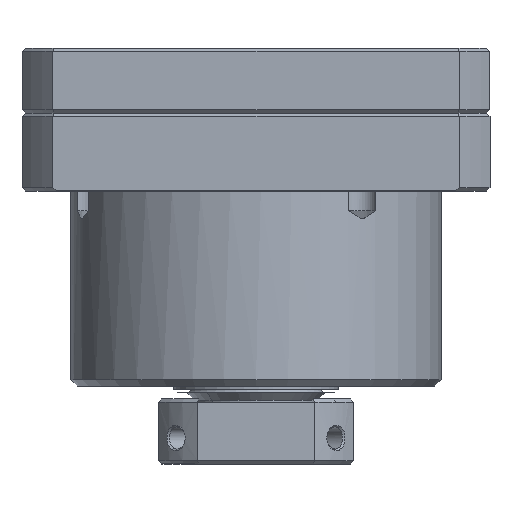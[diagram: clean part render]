
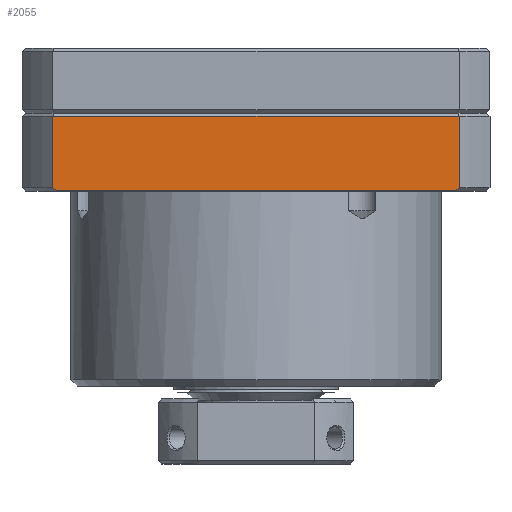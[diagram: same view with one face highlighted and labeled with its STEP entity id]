
A CAD part, front view. The second image highlights one B-rep face of the part: STEP entity #2055.
In plain terms, the highlighted planar face has unit normal (0, -1, 0).
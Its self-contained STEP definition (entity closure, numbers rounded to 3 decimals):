
#205 = EDGE_CURVE ( 'NONE', #2516, #1234, #7622, .T. ) ;
#362 = CARTESIAN_POINT ( 'NONE',  ( -30.917, -29.5, -11.767 ) ) ;
#441 = B_SPLINE_CURVE_WITH_KNOTS ( 'NONE', 3,
 ( #4184, #6577, #3619, #7849 ),
 .UNSPECIFIED., .F., .F.,
 ( 4, 4 ),
 ( 0., 0.001 ),
 .UNSPECIFIED. ) ;
#472 = DIRECTION ( 'NONE',  ( 0., 0., -1. ) ) ;
#548 = CARTESIAN_POINT ( 'NONE',  ( -31.285, -29.5, -0.5 ) ) ;
#573 = PLANE ( 'NONE',  #4563 ) ;
#602 = ORIENTED_EDGE ( 'NONE', *, *, #3113, .F. ) ;
#762 = CARTESIAN_POINT ( 'NONE',  ( -31.285, -29.5, -11.5 ) ) ;
#1016 = CARTESIAN_POINT ( 'NONE',  ( -31.101, -29.5, -11.634 ) ) ;
#1234 = VERTEX_POINT ( 'NONE', #1842 ) ;
#1362 = LINE ( 'NONE', #6729, #3041 ) ;
#1647 = CARTESIAN_POINT ( 'NONE',  ( -31.285, -29.5, -11.5 ) ) ;
#1740 = EDGE_CURVE ( 'NONE', #3479, #7057, #7244, .T. ) ;
#1822 = EDGE_CURVE ( 'NONE', #2274, #2516, #2208, .T. ) ;
#1842 = CARTESIAN_POINT ( 'NONE',  ( 30.733, -29.5, -11.9 ) ) ;
#1911 = EDGE_CURVE ( 'NONE', #3479, #5870, #7902, .T. ) ;
#2055 = ADVANCED_FACE ( 'NONE', ( #3932 ), #573, .T. ) ;
#2208 = B_SPLINE_CURVE_WITH_KNOTS ( 'NONE', 3,
 ( #1647, #1016, #362, #4093 ),
 .UNSPECIFIED., .F., .F.,
 ( 4, 4 ),
 ( 0., 0.001 ),
 .UNSPECIFIED. ) ;
#2209 = CARTESIAN_POINT ( 'NONE',  ( -36., -29.5, -11.9 ) ) ;
#2274 = VERTEX_POINT ( 'NONE', #762 ) ;
#2466 = DIRECTION ( 'NONE',  ( 0., 0., 1. ) ) ;
#2516 = VERTEX_POINT ( 'NONE', #3056 ) ;
#2573 = VECTOR ( 'NONE', #472, 1000. ) ;
#2859 = EDGE_LOOP ( 'NONE', ( #6570, #3224, #4297, #2871, #4794, #602 ) ) ;
#2871 = ORIENTED_EDGE ( 'NONE', *, *, #1740, .F. ) ;
#3041 = VECTOR ( 'NONE', #2466, 1000. ) ;
#3056 = CARTESIAN_POINT ( 'NONE',  ( -30.733, -29.5, -11.9 ) ) ;
#3099 = DIRECTION ( 'NONE',  ( 0., -1., 0. ) ) ;
#3113 = EDGE_CURVE ( 'NONE', #2274, #5870, #1362, .T. ) ;
#3224 = ORIENTED_EDGE ( 'NONE', *, *, #205, .T. ) ;
#3248 = CARTESIAN_POINT ( 'NONE',  ( 31.285, -29.5, -0.5 ) ) ;
#3479 = VERTEX_POINT ( 'NONE', #3248 ) ;
#3619 = CARTESIAN_POINT ( 'NONE',  ( 31.101, -29.5, -11.634 ) ) ;
#3855 = DIRECTION ( 'NONE',  ( 0., 0., -1. ) ) ;
#3932 = FACE_OUTER_BOUND ( 'NONE', #2859, .T. ) ;
#4093 = CARTESIAN_POINT ( 'NONE',  ( -30.733, -29.5, -11.9 ) ) ;
#4184 = CARTESIAN_POINT ( 'NONE',  ( 30.733, -29.5, -11.9 ) ) ;
#4297 = ORIENTED_EDGE ( 'NONE', *, *, #7101, .T. ) ;
#4563 = AXIS2_PLACEMENT_3D ( 'NONE', #5403, #3099, #3855 ) ;
#4794 = ORIENTED_EDGE ( 'NONE', *, *, #1911, .T. ) ;
#5403 = CARTESIAN_POINT ( 'NONE',  ( -36., -29.5, -42. ) ) ;
#5414 = CARTESIAN_POINT ( 'NONE',  ( 31.285, -29.5, -11.5 ) ) ;
#5870 = VERTEX_POINT ( 'NONE', #548 ) ;
#6024 = VECTOR ( 'NONE', #7748, 1000. ) ;
#6570 = ORIENTED_EDGE ( 'NONE', *, *, #1822, .T. ) ;
#6577 = CARTESIAN_POINT ( 'NONE',  ( 30.917, -29.5, -11.767 ) ) ;
#6729 = CARTESIAN_POINT ( 'NONE',  ( -31.285, -29.5, 29.63 ) ) ;
#7057 = VERTEX_POINT ( 'NONE', #5414 ) ;
#7101 = EDGE_CURVE ( 'NONE', #1234, #7057, #441, .T. ) ;
#7156 = CARTESIAN_POINT ( 'NONE',  ( -36., -29.5, -0.5 ) ) ;
#7244 = LINE ( 'NONE', #7843, #2573 ) ;
#7622 = LINE ( 'NONE', #2209, #6024 ) ;
#7716 = VECTOR ( 'NONE', #7965, 1000. ) ;
#7748 = DIRECTION ( 'NONE',  ( 1., 0., 0. ) ) ;
#7843 = CARTESIAN_POINT ( 'NONE',  ( 31.285, -29.5, 29.63 ) ) ;
#7849 = CARTESIAN_POINT ( 'NONE',  ( 31.285, -29.5, -11.5 ) ) ;
#7902 = LINE ( 'NONE', #7156, #7716 ) ;
#7965 = DIRECTION ( 'NONE',  ( -1., 0., 0. ) ) ;
